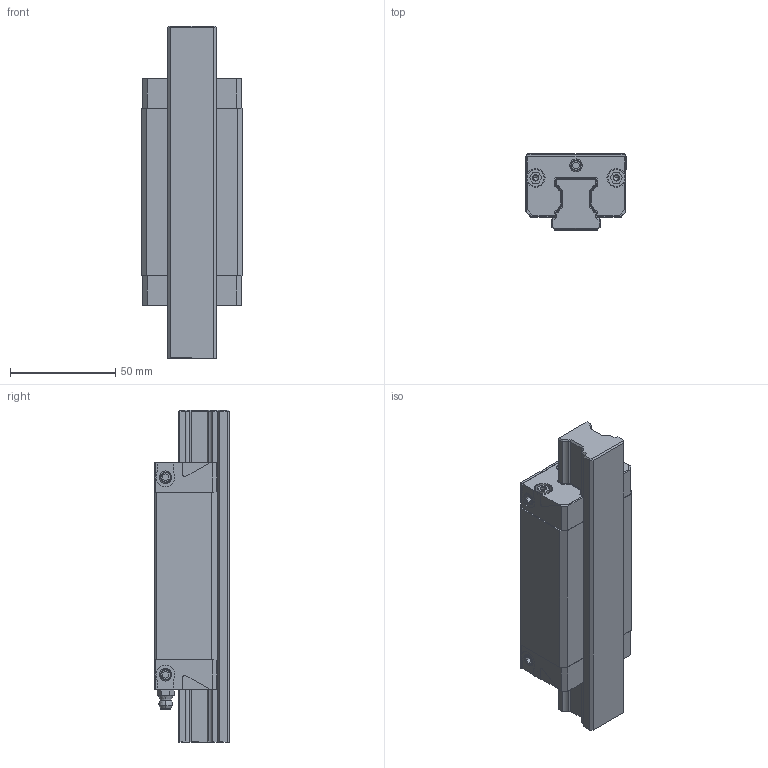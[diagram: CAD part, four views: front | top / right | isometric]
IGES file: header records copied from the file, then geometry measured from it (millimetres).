
Start section: 3D InterOp IGES (v. 2019 1.0.2), Spatial Corp. Copyright (c) 1999-2017.
Global section: file name: R2012_size25.igs; native system: Spatial Corp.; preprocessor: 3D InterOp GENERIC/IGES 3.0; author: Noname; organization: Noname; date: 20220629.154353; units: millimetre
Bounding box: 48 x 36 x 157.9 mm (x, y, z)
Surface area: 53723.1 mm2 (no closed solid volume)
Topology: 0 solids, 0 shells, 521 faces, 2748 edges, 2718 vertices
Faces by surface type: extrusion 292, revolution 229
